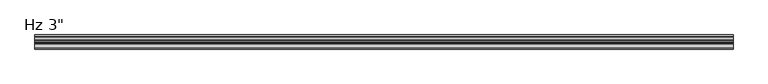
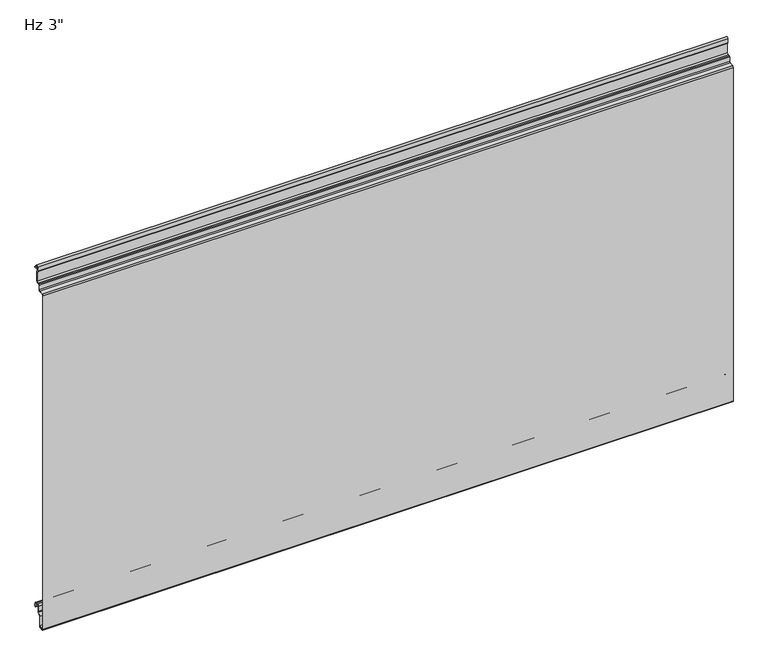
"""IFC4 building model written with IfcOpenShell, lengths in millimetres: plate geometry."""

from ifc_helpers import new_model, si_unit, point, frame, frame_2d, origin, place, context, project, spatial, polyline, circle_curve, trimmed, segment, composite_curve, outline, extrude, source, transform, mapped, element, save


def plate_895d6cfe(model_context):
    return source(origin(), model_context, "Body", "SweptSolid", [
        extrude(outline(composite_curve([segment(trimmed(circle_curve(frame_2d((-72.6296795, -32.4521105)), 3.5702393), [point((-72.3184091, -36.0087549))], [point((-76.1999188, -32.4521083))], False, "CARTESIAN"), True, "CONTINUOUS"), segment(polyline([(-76.1999188, -32.4521083), (-76.1994418, 713.5384307)]), True, "CONTINUOUS"), segment(trimmed(circle_curve(frame_2d((-73.2494477, 713.5384288)), 2.9499941), [point((-76.1994418, 713.5384307))], [point((-73.5065566, 716.4771973))], False, "CARTESIAN"), True, "CONTINUOUS"), segment(polyline([(-73.5065566, 716.4771973), (-65.042179, 717.2177344)]), True, "CONTINUOUS"), segment(trimmed(circle_curve(frame_2d((-65.2191048, 719.2400056)), 2.0299959), [point((-65.042179, 717.2177344))], [point((-63.1917189, 719.3429135))], True, "CARTESIAN"), True, "CONTINUOUS"), segment(polyline([(-63.1917189, 719.3429135), (-63.1917189, 729.458279)]), True, "CONTINUOUS"), segment(trimmed(circle_curve(frame_2d((-61.2425659, 729.4595944)), 1.9491534), [point((-63.1917189, 729.458279))], [point((-61.2425659, 731.4087478))], False, "CARTESIAN"), True, "CONTINUOUS"), segment(polyline([(-61.2425659, 731.4087478), (-58.1011658, 731.4087475)]), True, "CONTINUOUS"), segment(trimmed(circle_curve(frame_2d((-58.1011658, 734.4087415)), 2.999994), [point((-58.1011658, 731.4087475))], [point((-55.1011718, 734.4087415))], True, "CARTESIAN"), True, "CONTINUOUS"), segment(polyline([(-55.1011718, 734.4087415), (-55.1011718, 755.0122013), (-56.3470159, 755.7314897)]), True, "CONTINUOUS"), segment(trimmed(circle_curve(frame_2d((-55.6220173, 756.987224)), 1.4499971), [point((-56.3470159, 755.7314897))], [point((-57.0712455, 757.0344401))], False, "CARTESIAN"), True, "CONTINUOUS"), segment(polyline([(-57.0712455, 757.0344401), (-56.7263372, 765.7463704)]), True, "CONTINUOUS"), segment(trimmed(circle_curve(frame_2d((-53.6268913, 765.6236622)), 3.1018739), [point((-56.7263372, 765.7463704))], [point((-50.5277704, 765.7543204))], False, "CARTESIAN"), True, "CONTINUOUS"), segment(polyline([(-50.5277704, 765.7543204), (-50.2839836, 761.7587)]), True, "CONTINUOUS"), segment(trimmed(circle_curve(frame_2d((-49.4437539, 761.8099653)), 0.8417922), [point((-50.2839836, 761.7587))], [point((-49.4732011, 760.9686884))], True, "CARTESIAN"), True, "CONTINUOUS"), segment(polyline([(-49.4732011, 760.9686884), (-46.7027683, 760.9686884), (-46.7027683, 759.9686884), (-49.4873149, 759.9686884)]), True, "CONTINUOUS"), segment(trimmed(circle_curve(frame_2d((-49.4437539, 761.8099653)), 1.8417922), [point((-49.4873149, 759.9686884))], [point((-51.2821274, 761.6977997))], False, "CARTESIAN"), True, "CONTINUOUS"), segment(polyline([(-51.2821274, 761.6977997), (-51.5265424, 765.7037148)]), True, "CONTINUOUS"), segment(trimmed(circle_curve(frame_2d((-53.6268913, 765.6236622)), 2.1018739), [point((-51.5265424, 765.7037148))], [point((-55.7271199, 765.706811))], True, "CARTESIAN"), True, "CONTINUOUS"), segment(polyline([(-55.7271199, 765.706811), (-56.0823803, 756.7334028), (-54.1011718, 755.5895515), (-54.1011718, 734.4087415)]), True, "CONTINUOUS"), segment(trimmed(circle_curve(frame_2d((-58.1011658, 734.4087415)), 3.999994), [point((-54.1011718, 734.4087415))], [point((-58.1011658, 730.4087475))], False, "CARTESIAN"), True, "CONTINUOUS"), segment(polyline([(-58.1011658, 730.4087475), (-61.2425659, 730.4087475)]), True, "CONTINUOUS"), segment(trimmed(circle_curve(frame_2d((-61.2425659, 729.4595944)), 0.9491534), [point((-61.2425659, 730.4087475))], [point((-62.1917189, 729.4586765))], True, "CARTESIAN"), True, "CONTINUOUS"), segment(polyline([(-62.1917189, 729.4586765), (-62.1917189, 719.3657441)]), True, "CONTINUOUS"), segment(trimmed(circle_curve(frame_2d((-65.2191048, 719.2400056)), 3.0299959), [point((-62.1917189, 719.3657441))], [point((-64.9550232, 716.2215397))], False, "CARTESIAN"), True, "CONTINUOUS"), segment(polyline([(-64.9550232, 716.2215397), (-73.4193197, 715.4810097)]), True, "CONTINUOUS"), segment(trimmed(circle_curve(frame_2d((-73.2493665, 713.5384359)), 1.9499941), [point((-73.4193197, 715.4810097))], [point((-75.1993606, 713.5384359))], True, "CARTESIAN"), True, "CONTINUOUS"), segment(polyline([(-75.1993606, 713.5384359), (-75.1993606, -32.509446)]), True, "CONTINUOUS"), segment(trimmed(circle_curve(frame_2d((-72.6297607, -32.4521176)), 2.5702393), [point((-75.1993606, -32.509446))], [point((-72.4056751, -35.0125699))], True, "CARTESIAN"), True, "CONTINUOUS"), segment(polyline([(-72.4056751, -35.0125699), (-67.4238542, -34.5765709)]), True, "CONTINUOUS"), segment(trimmed(circle_curve(frame_2d((-67.9052448, -31.9198392)), 2.6999926), [point((-67.4238542, -34.5765709))], [point((-65.2052522, -31.9198392))], True, "CARTESIAN"), True, "CONTINUOUS"), segment(polyline([(-65.2052522, -31.9198392), (-65.2052522, -9.8247096), (-59.7031811, -4.3226385)]), True, "CONTINUOUS"), segment(trimmed(circle_curve(frame_2d((-60.9052588, -3.1205608)), 1.6999946), [point((-59.7031811, -4.3226385))], [point((-59.2052642, -3.1205608))], True, "CARTESIAN"), True, "CONTINUOUS"), segment(polyline([(-59.2052642, -3.1205608), (-59.2052642, 8.6903283)]), True, "CONTINUOUS"), segment(trimmed(circle_curve(frame_2d((-55.8552689, 8.6903283)), 3.3499953), [point((-59.2052642, 8.6903283))], [point((-55.8552689, 12.0403236))], False, "CARTESIAN"), True, "CONTINUOUS"), segment(polyline([(-55.8552689, 12.0403236), (-51.4552777, 12.0403236)]), True, "CONTINUOUS"), segment(trimmed(circle_curve(frame_2d((-51.4552777, 8.6903283)), 3.3499953), [point((-51.4552777, 12.0403236))], [point((-48.1052824, 8.6903283))], False, "CARTESIAN"), True, "CONTINUOUS"), segment(polyline([(-48.1052824, 8.6903283), (-48.1052824, 5.9912173), (-46.7068035, 5.9912173), (-46.7068035, 2.2328239)]), True, "CONTINUOUS"), segment(trimmed(circle_curve(frame_2d((-47.9068002, 2.2313092)), 1.1999976), [point((-46.7068035, 2.2328239))], [point((-47.8762782, 1.0316999))], False, "CARTESIAN"), True, "CONTINUOUS"), segment(trimmed(circle_curve(frame_2d((-47.9068002, 2.2313092)), 1.1999976), [point((-47.8762782, 1.0316999))], [point((-49.1052824, 2.1710221))], False, "CARTESIAN"), True, "CONTINUOUS"), segment(polyline([(-49.1052824, 2.1710221), (-49.1052824, 8.6903283)]), True, "CONTINUOUS"), segment(trimmed(circle_curve(frame_2d((-51.4552777, 8.6903283)), 2.3499953), [point((-49.1052824, 8.6903283))], [point((-51.4552777, 11.0403236))], True, "CARTESIAN"), True, "CONTINUOUS"), segment(polyline([(-51.4552777, 11.0403236), (-55.8552689, 11.0403236)]), True, "CONTINUOUS"), segment(trimmed(circle_curve(frame_2d((-55.8552689, 8.6903283)), 2.3499953), [point((-55.8552689, 11.0403236))], [point((-58.2052642, 8.6903283))], True, "CARTESIAN"), True, "CONTINUOUS"), segment(polyline([(-58.2052642, 8.6903283), (-58.2052642, -3.1205608)]), True, "CONTINUOUS"), segment(trimmed(circle_curve(frame_2d((-60.9052588, -3.1205608)), 2.6999946), [point((-58.2052642, -3.1205608))], [point((-58.9960743, -5.0297453))], False, "CARTESIAN"), True, "CONTINUOUS"), segment(polyline([(-58.9960743, -5.0297453), (-63.8244918, -9.8581627)]), True, "CONTINUOUS"), segment(trimmed(circle_curve(frame_2d((-62.9052548, -10.7773997)), 1.2999974), [point((-63.8244918, -9.8581627))], [point((-64.2052522, -10.7773997))], True, "CARTESIAN"), True, "CONTINUOUS"), segment(polyline([(-64.2052522, -10.7773997), (-64.2052522, -31.9198392)]), True, "CONTINUOUS"), segment(trimmed(circle_curve(frame_2d((-67.9052448, -31.9198392)), 3.6999926), [point((-64.2052522, -31.9198392))], [point((-67.2944437, -35.5690675))], False, "CARTESIAN"), True, "CONTINUOUS"), segment(polyline([(-67.2944437, -35.5690675), (-72.3184091, -36.0087549)]), True, "CONTINUOUS")], self_intersect=False)), frame((-730.0, 0.0, 0.0), z_axis=(1.0, 0.0, 0.0), x_axis=(0.0, 1.0, 0.0)), (0.0, 0.0, 1.0), 1460.0),
    ])


if __name__ == "__main__":
    model = new_model("IFC4")
    model_context = context("Model", 3, world=origin())
    ifc_project = project(units=[si_unit("LENGTHUNIT", "METRE", prefix="MILLI")], contexts=[model_context])
    site = spatial("IfcSite", under=ifc_project)
    building = spatial("IfcBuilding", under=site)
    placement = place(None, origin())
    plate_shape = plate_895d6cfe(model_context)
    element("IfcPlate", 1, ObjectType="KIP-30-Karrier-KP-R19-CP-Hz-FL3-8in_SL : Hz 3\"", at=placement, inside=building, context=model_context, shape_type="MappedRepresentation", body=[
        mapped(plate_shape, transform((0.0, 0.0, 0.0), x_axis=(1.0, 0.0, 0.0), y_axis=(0.0, 1.0, 0.0), z_axis=(0.0, 0.0, 1.0))),
    ])
    save(model, "model.ifc")
